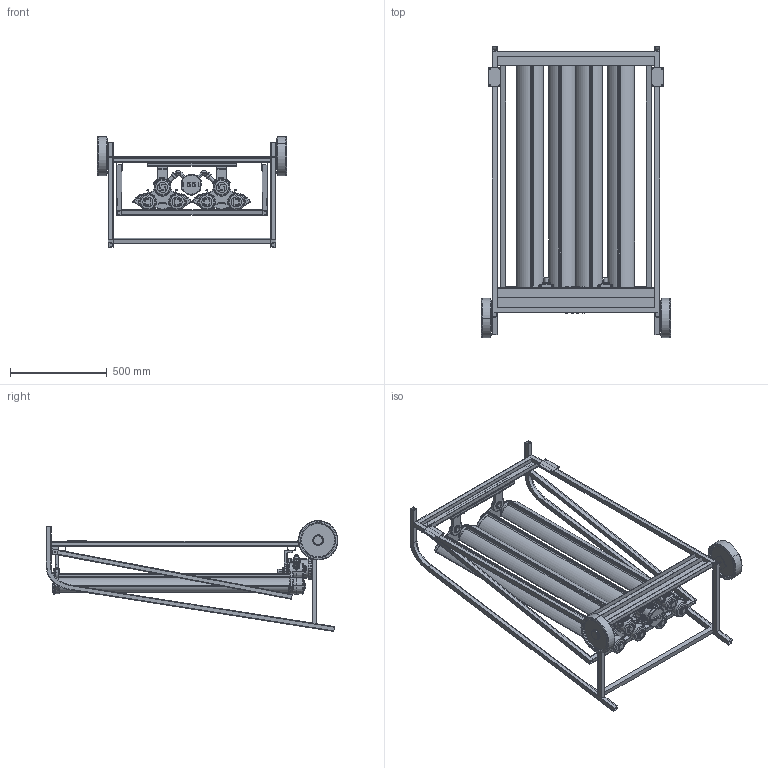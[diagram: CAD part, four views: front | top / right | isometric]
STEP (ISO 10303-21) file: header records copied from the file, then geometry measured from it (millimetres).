
FILE_DESCRIPTION (( 'STEP AP203' ), '1' );
FILE_NAME ('EPLUC-48-4L-LED step.STEP', '2012-10-19T10:31:33', ( '' ), ( '' ), 'SwSTEP 2.0', 'SolidWorks 2011', '' );
FILE_SCHEMA (( 'CONFIG_CONTROL_DESIGN' ));
Length unit declared in the file: inch
Products named in the file (20): EPLUC-48-4L-LED step; 2 Set 4ft Expl Proof JD; JUNCT BOX A; NINETY; END CAP; JUNCT BOX; Expl Heav 4ft; Hinge mt.; Ballast; Update Reflector 4ft; Glass tube4ft; quarter screw; Hinge mt. 3; Spider End; End Support; connect 2; connect 1; Rack Mount 8 inch Wheel; Rack Mount Part 2; Rack Mount Part 1
Assembly tree (29 placements, depth 4):
  EPLUC-48-4L-LED step
    Rack Mount 8 inch Wheel  x2
    2 Set 4ft Expl Proof JD
      JUNCT BOX A
        JUNCT BOX  x2
        NINETY  x2
        END CAP  x2
      Expl Heav 4ft  x2
        quarter screw
        Update Reflector 4ft
        Glass tube4ft
        connect 1
        connect 2
        Hinge mt. 3
        End Support
        Spider End
        Hinge mt.
    Rack Mount Part 2
    Rack Mount Part 1
  Ballast
Bounding box: 977.2 x 1504.63 x 571.95 mm (x, y, z)
Volume: 27752330.5 mm3; surface area: 6536663.9 mm2
Topology: 44 solids, 49 shells, 2449 faces, 5666 edges, 3308 vertices
Faces by surface type: cylinder 796, plane 737, torus 590, bspline 122, cone 118, sphere 86
Entity records: 46227 total; most frequent: CARTESIAN_POINT 14670, DIRECTION 6482, ORIENTED_EDGE 5870, EDGE_CURVE 2935, AXIS2_PLACEMENT_3D 2585, VERTEX_POINT 1766, EDGE_LOOP 1387, CIRCLE 1367
